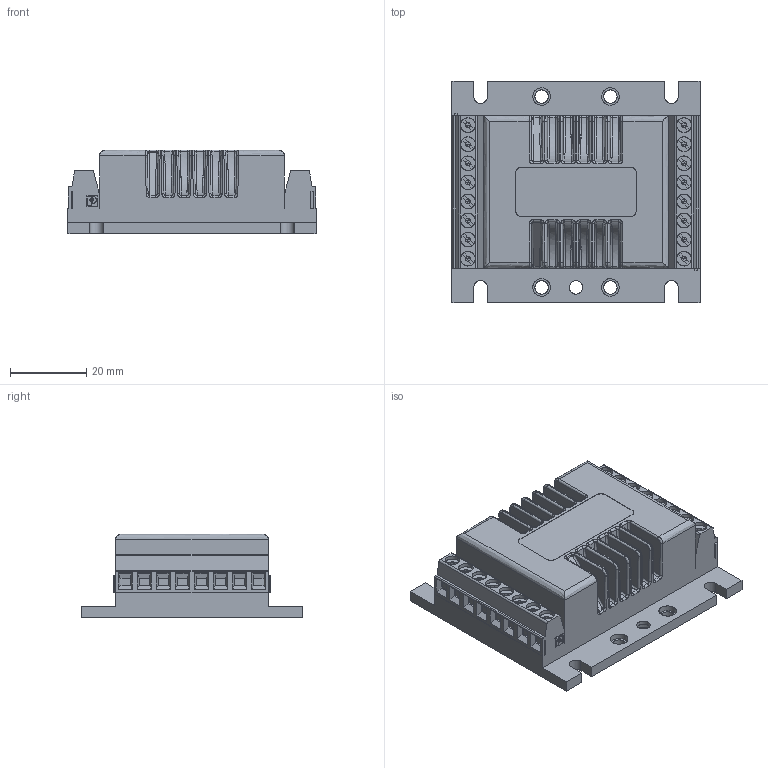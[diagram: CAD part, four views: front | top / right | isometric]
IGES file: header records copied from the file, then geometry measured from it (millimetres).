
Global section: file name: D:\Daten-Huge\PLM_Export\Huellen_aufbr\20120713_fuer_Vertrieb\SC2804_5008_n.igs; native system: NX V7.5; preprocessor: SIEMENS PLM Software NX 7.5; author: DR. FRITZ FAULHABER GmbH & Co. KG; organization: DR. FRITZ FAULHABER GmbH & Co. KG; date: 20120713.152342; units: millimetre
Bounding box: 65 x 58 x 22 mm (x, y, z)
Surface area: 17573.2 mm2 (no closed solid volume)
Topology: 0 solids, 0 shells, 1285 faces, 7234 edges, 7174 vertices
Faces by surface type: bspline 1285
